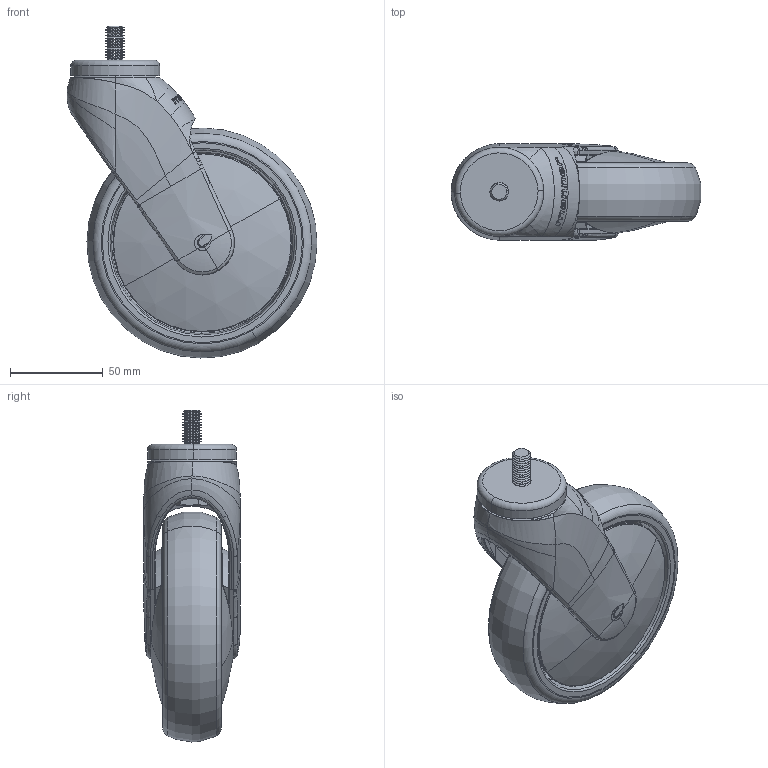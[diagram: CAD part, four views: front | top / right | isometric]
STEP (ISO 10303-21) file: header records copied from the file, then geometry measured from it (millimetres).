
FILE_DESCRIPTION (( 'STEP AP203' ), '1' );
FILE_NAME ('301649_STEP.STEP', '2011-06-10T08:11:01', ( '' ), ( '' ), 'SwSTEP 2.0', 'SolidWorks 2011', '' );
FILE_SCHEMA (( 'CONFIG_CONTROL_DESIGN' ));
Length unit declared in the file: millimetre
Products named in the file (1): 301649_STEP
Bounding box: 134.88 x 52.08 x 179.2 mm (x, y, z)
Surface area: 98197.9 mm2 (no closed solid volume)
Topology: 0 solids, 23 shells, 450 faces, 1481 edges, 993 vertices
Faces by surface type: bspline 207, torus 84, cone 67, cylinder 49, plane 39, sphere 4
Entity records: 95524 total; most frequent: CARTESIAN_POINT 84917, ORIENTED_EDGE 2517, DIRECTION 1487, EDGE_CURVE 1474, VERTEX_POINT 993, B_SPLINE_CURVE_WITH_KNOTS 872, AXIS2_PLACEMENT_3D 657, EDGE_LOOP 476
